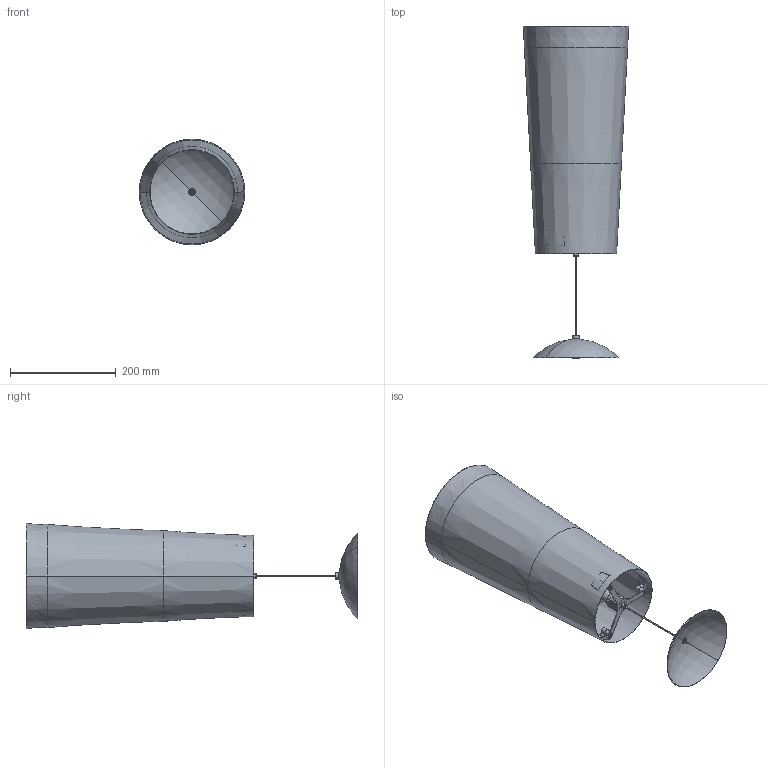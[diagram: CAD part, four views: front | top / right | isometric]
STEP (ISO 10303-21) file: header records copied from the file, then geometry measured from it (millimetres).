
FILE_DESCRIPTION (( 'STEP AP214' ), '1' );
FILE_NAME ('182_MINI_S_PL_3D.STEP', '2021-05-05T12:27:36', ( '' ), ( '' ), 'SwSTEP 2.0', 'SolidWorks 2021', '' );
FILE_SCHEMA (( 'AUTOMOTIVE_DESIGN' ));
Length unit declared in the file: millimetre
Products named in the file (1): 182_MINI_S_PL_3D
Bounding box: 199.22 x 627 x 199.22 mm (x, y, z)
Volume: 210534.2 mm3; surface area: 567726.7 mm2
Topology: 12 solids, 13 shells, 1133 faces, 3016 edges, 1950 vertices
Faces by surface type: plane 663, bspline 185, cylinder 167, cone 63, torus 51, sphere 4
Entity records: 52980 total; most frequent: CARTESIAN_POINT 16130, ORIENTED_EDGE 6020, DIRECTION 3515, EDGE_CURVE 3010, VERTEX_POINT 1950, B_SPLINE_CURVE_WITH_KNOTS 1641, AXIS2_PLACEMENT_3D 1306, EDGE_LOOP 1220
